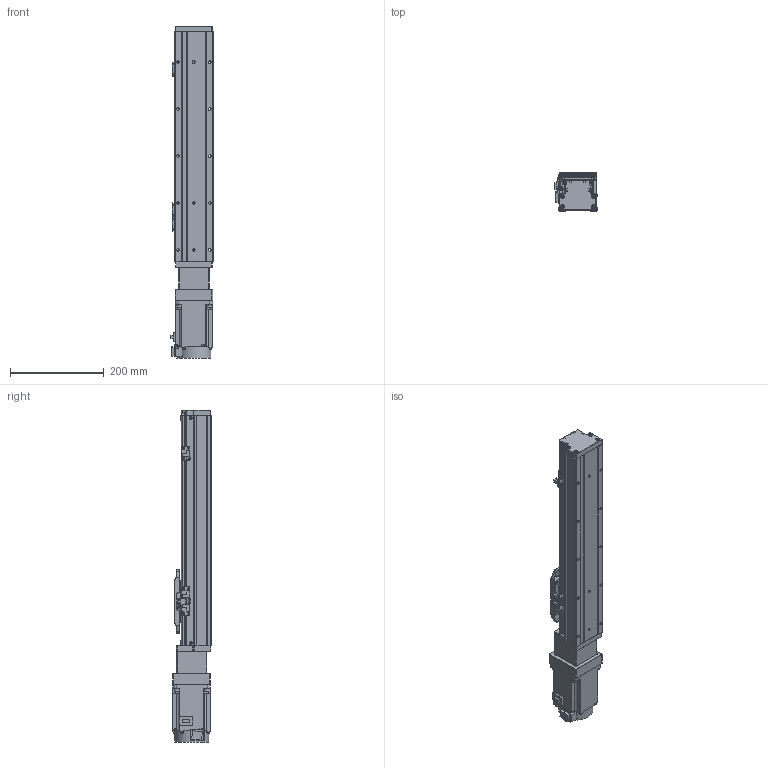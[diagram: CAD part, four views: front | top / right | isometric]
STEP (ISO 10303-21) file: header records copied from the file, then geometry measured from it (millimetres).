
FILE_DESCRIPTION (( 'STEP AP203' ), '1' );
FILE_NAME ('GTH8-300-BC-M75-C4.step', '2023-02-14T02:19:03', ( '微软用户' ), ( '微软中国' ), 'SwSTEP 2.0', 'SolidWorks 2020', '' );
FILE_SCHEMA (( 'CONFIG_CONTROL_DESIGN' ));
Length unit declared in the file: millimetre
Products named in the file (19): GTH50-023; GTH8-300-BC-M75-C4; GBT 70.3-M3℅6; GBT96.1-2002 3×0.8; GTH80-022; BTH-M3X5X6; GTH80-001_300; GBT 70.1-M3℅6; CTHA86-006-1_CTHA86-006-4; GTH80-003; GBT 70.1-M4×16; CTHA86-013; GTH80-004; GTH80-028; CTHA86-027; GTH80-006; GTH50-024; hg-kn73j_-s100; GTH80-013
Assembly tree (60 placements, depth 2):
  GTH8-300-BC-M75-C4
    GTH80-001_300
    GTH80-003
    GTH80-004
    GTH80-006
    GTH80-013
    GBT 70.3-M3℅6  x6
    GTH80-022
    GBT 70.1-M3℅6  x14
    GBT 70.1-M4×16  x8
    GTH80-028  x2
    GTH50-024  x3
    GTH50-023  x3
    GBT96.1-2002 3×0.8  x6
    BTH-M3X5X6  x8
    CTHA86-006-1_CTHA86-006-4
    CTHA86-013
    CTHA86-027
    hg-kn73j_-s100
Bounding box: 89.8 x 81.72 x 707.2 mm (x, y, z)
Volume: 3350148.1 mm3; surface area: 376049.9 mm2
Topology: 62 solids, 62 shells, 2245 faces, 5162 edges, 3144 vertices
Faces by surface type: plane 1185, cylinder 603, cone 285, torus 162, sphere 8, bspline 2
Entity records: 39193 total; most frequent: CARTESIAN_POINT 6458, DIRECTION 6447, ORIENTED_EDGE 5914, EDGE_CURVE 2957, AXIS2_PLACEMENT_3D 2251, VECTOR 1945, LINE 1945, VERTEX_POINT 1857
